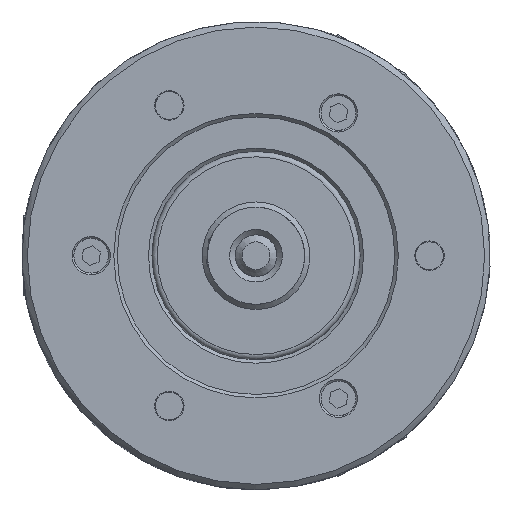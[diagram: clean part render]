
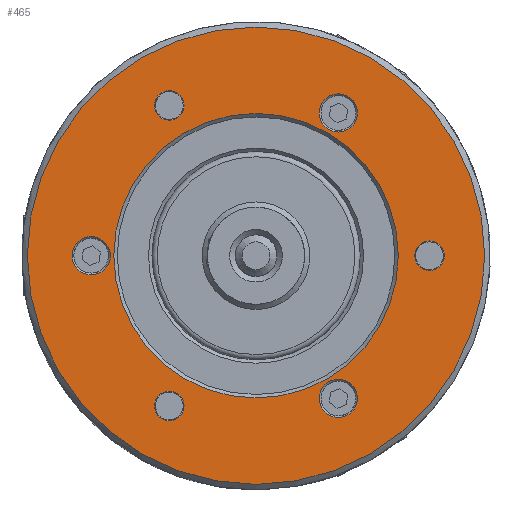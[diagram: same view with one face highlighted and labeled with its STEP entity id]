
A CAD part, left-side view. The second image highlights one B-rep face of the part: STEP entity #465.
In plain terms, the highlighted planar face has unit normal (-1, 0, 0).
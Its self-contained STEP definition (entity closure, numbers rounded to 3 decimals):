
#465 = ADVANCED_FACE ( 'NONE', ( #18874, #13211, #9351, #35687, #46333, #25049, #4842, #36831 ), #7639, .F. ) ;
#482 = CARTESIAN_POINT ( 'NONE',  ( 0., 21.319, 45.426 ) ) ;
#565 = EDGE_LOOP ( 'NONE', ( #26944 ) ) ;
#2812 = AXIS2_PLACEMENT_3D ( 'NONE', #46256, #28433, #38905 ) ;
#3235 = CIRCLE ( 'NONE', #45932, 4.25 ) ;
#4842 = FACE_BOUND ( 'NONE', #8005, .T. ) ;
#4862 = EDGE_LOOP ( 'NONE', ( #31425 ) ) ;
#4901 = EDGE_LOOP ( 'NONE', ( #12811 ) ) ;
#5207 = DIRECTION ( 'NONE',  ( 0., 0.866, -0.5 ) ) ;
#5232 = CARTESIAN_POINT ( 'NONE',  ( 0., 25., -43.301 ) ) ;
#5282 = ORIENTED_EDGE ( 'NONE', *, *, #12299, .F. ) ;
#5704 = DIRECTION ( 'NONE',  ( 0., 0.866, 0.5 ) ) ;
#5717 = CIRCLE ( 'NONE', #33409, 5.5 ) ;
#5809 = EDGE_LOOP ( 'NONE', ( #14881 ) ) ;
#6012 = CARTESIAN_POINT ( 'NONE',  ( 0., 0., 0. ) ) ;
#6256 = VERTEX_POINT ( 'NONE', #22082 ) ;
#6488 = DIRECTION ( 'NONE',  ( -1., 0., 0. ) ) ;
#6489 = DIRECTION ( 'NONE',  ( 1., 0., 0. ) ) ;
#6833 = AXIS2_PLACEMENT_3D ( 'NONE', #13989, #6489, #13657 ) ;
#7158 = CIRCLE ( 'NONE', #44713, 5.5 ) ;
#7370 = CARTESIAN_POINT ( 'NONE',  ( 0., 0., -65.9 ) ) ;
#7387 = EDGE_LOOP ( 'NONE', ( #5282 ) ) ;
#7639 = PLANE ( 'NONE',  #17436 ) ;
#8005 = EDGE_LOOP ( 'NONE', ( #21169 ) ) ;
#8236 = EDGE_CURVE ( 'NONE', #6256, #6256, #32412, .T. ) ;
#8433 = VERTEX_POINT ( 'NONE', #36964 ) ;
#9316 = DIRECTION ( 'NONE',  ( 1., 0., 0. ) ) ;
#9351 = FACE_BOUND ( 'NONE', #33919, .T. ) ;
#10087 = DIRECTION ( 'NONE',  ( 0., 0., -1. ) ) ;
#11072 = CARTESIAN_POINT ( 'NONE',  ( 0., 47.5, 0. ) ) ;
#11211 = DIRECTION ( 'NONE',  ( 0., 0., -1. ) ) ;
#12069 = ORIENTED_EDGE ( 'NONE', *, *, #22870, .T. ) ;
#12299 = EDGE_CURVE ( 'NONE', #23081, #23081, #42036, .T. ) ;
#12350 = VERTEX_POINT ( 'NONE', #18131 ) ;
#12472 = DIRECTION ( 'NONE',  ( 0., 0., 1. ) ) ;
#12811 = ORIENTED_EDGE ( 'NONE', *, *, #24430, .F. ) ;
#13211 = FACE_OUTER_BOUND ( 'NONE', #32423, .T. ) ;
#13657 = DIRECTION ( 'NONE',  ( 0., 0., -1. ) ) ;
#13989 = CARTESIAN_POINT ( 'NONE',  ( 0., -50., 0. ) ) ;
#14881 = ORIENTED_EDGE ( 'NONE', *, *, #17360, .T. ) ;
#14959 = CARTESIAN_POINT ( 'NONE',  ( 0., 0., 0. ) ) ;
#17360 = EDGE_CURVE ( 'NONE', #41521, #41521, #37088, .T. ) ;
#17436 = AXIS2_PLACEMENT_3D ( 'NONE', #14959, #36287, #11211 ) ;
#18131 = CARTESIAN_POINT ( 'NONE',  ( 0., -28.513, 38.386 ) ) ;
#18874 = FACE_BOUND ( 'NONE', #7387, .T. ) ;
#19797 = CARTESIAN_POINT ( 'NONE',  ( 0., -23.75, -41.136 ) ) ;
#20042 = CARTESIAN_POINT ( 'NONE',  ( 0., 0., 0. ) ) ;
#21169 = ORIENTED_EDGE ( 'NONE', *, *, #8236, .F. ) ;
#21912 = DIRECTION ( 'NONE',  ( -1., 0., 0. ) ) ;
#22082 = CARTESIAN_POINT ( 'NONE',  ( 0., 47.5, 5.5 ) ) ;
#22870 = EDGE_CURVE ( 'NONE', #45449, #45449, #28315, .T. ) ;
#22873 = CIRCLE ( 'NONE', #2812, 4.25 ) ;
#23081 = VERTEX_POINT ( 'NONE', #25336 ) ;
#23503 = AXIS2_PLACEMENT_3D ( 'NONE', #6012, #6488, #10087 ) ;
#24430 = EDGE_CURVE ( 'NONE', #12350, #12350, #5717, .T. ) ;
#24934 = CARTESIAN_POINT ( 'NONE',  ( 0., -23.75, 41.136 ) ) ;
#25049 = FACE_BOUND ( 'NONE', #565, .T. ) ;
#25336 = CARTESIAN_POINT ( 'NONE',  ( 0., 0., 41. ) ) ;
#26604 = CARTESIAN_POINT ( 'NONE',  ( 0., -18.987, -43.886 ) ) ;
#26944 = ORIENTED_EDGE ( 'NONE', *, *, #39746, .T. ) ;
#26949 = DIRECTION ( 'NONE',  ( -1., 0., 0. ) ) ;
#27549 = VERTEX_POINT ( 'NONE', #482 ) ;
#28315 = CIRCLE ( 'NONE', #23503, 65.9 ) ;
#28433 = DIRECTION ( 'NONE',  ( 1., 0., 0. ) ) ;
#29164 = CARTESIAN_POINT ( 'NONE',  ( 0., -50., -4.25 ) ) ;
#31425 = ORIENTED_EDGE ( 'NONE', *, *, #31553, .T. ) ;
#31553 = EDGE_CURVE ( 'NONE', #27549, #27549, #22873, .T. ) ;
#32377 = AXIS2_PLACEMENT_3D ( 'NONE', #11072, #21912, #40355 ) ;
#32412 = CIRCLE ( 'NONE', #32377, 5.5 ) ;
#32423 = EDGE_LOOP ( 'NONE', ( #12069 ) ) ;
#33409 = AXIS2_PLACEMENT_3D ( 'NONE', #24934, #39321, #46213 ) ;
#33919 = EDGE_LOOP ( 'NONE', ( #43986 ) ) ;
#35687 = FACE_BOUND ( 'NONE', #4901, .T. ) ;
#36287 = DIRECTION ( 'NONE',  ( 1., 0., 0. ) ) ;
#36831 = FACE_BOUND ( 'NONE', #5809, .T. ) ;
#36964 = CARTESIAN_POINT ( 'NONE',  ( 0., 28.681, -41.176 ) ) ;
#37088 = CIRCLE ( 'NONE', #6833, 4.25 ) ;
#38905 = DIRECTION ( 'NONE',  ( 0., -0.866, 0.5 ) ) ;
#39321 = DIRECTION ( 'NONE',  ( -1., 0., 0. ) ) ;
#39746 = EDGE_CURVE ( 'NONE', #8433, #8433, #3235, .T. ) ;
#40355 = DIRECTION ( 'NONE',  ( 0., 0., 1. ) ) ;
#41521 = VERTEX_POINT ( 'NONE', #29164 ) ;
#42036 = CIRCLE ( 'NONE', #45372, 41. ) ;
#42801 = EDGE_CURVE ( 'NONE', #44870, #44870, #7158, .T. ) ;
#43986 = ORIENTED_EDGE ( 'NONE', *, *, #42801, .F. ) ;
#44713 = AXIS2_PLACEMENT_3D ( 'NONE', #19797, #44837, #5207 ) ;
#44837 = DIRECTION ( 'NONE',  ( -1., 0., 0. ) ) ;
#44870 = VERTEX_POINT ( 'NONE', #26604 ) ;
#45372 = AXIS2_PLACEMENT_3D ( 'NONE', #20042, #26949, #12472 ) ;
#45449 = VERTEX_POINT ( 'NONE', #7370 ) ;
#45932 = AXIS2_PLACEMENT_3D ( 'NONE', #5232, #9316, #5704 ) ;
#46213 = DIRECTION ( 'NONE',  ( 0., -0.866, -0.5 ) ) ;
#46256 = CARTESIAN_POINT ( 'NONE',  ( 0., 25., 43.301 ) ) ;
#46333 = FACE_BOUND ( 'NONE', #4862, .T. ) ;
